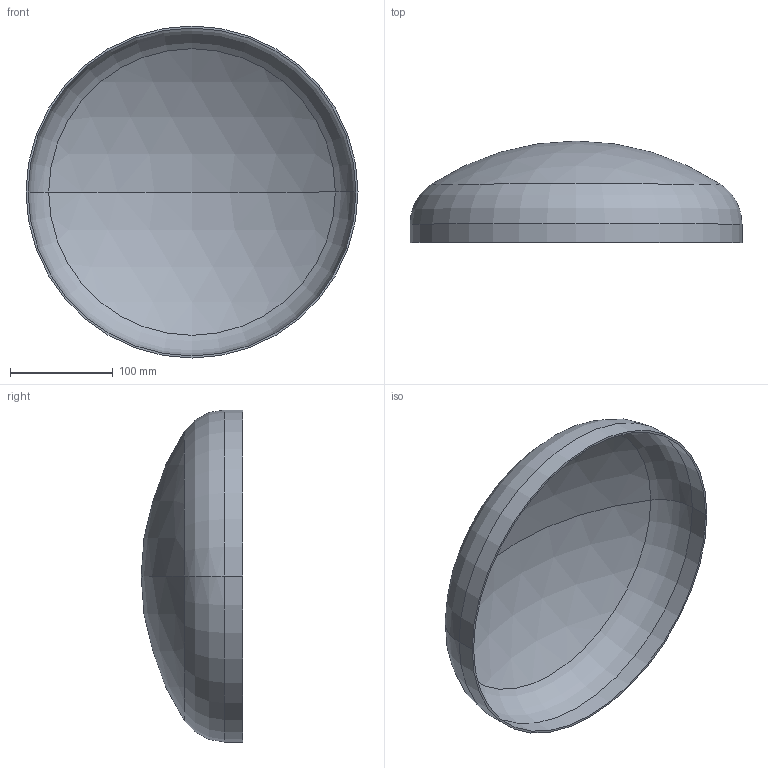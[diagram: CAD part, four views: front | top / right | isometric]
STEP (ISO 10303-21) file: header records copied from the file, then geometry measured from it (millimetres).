
FILE_DESCRIPTION (( 'STEP AP203' ), '1' );
FILE_NAME ('3D_R365_323.9x2_173374040.STEP', '2024-07-16T07:00:27', ( '' ), ( '' ), 'SwSTEP 2.0', 'SolidWorks 2024', '' );
FILE_SCHEMA (( 'CONFIG_CONTROL_DESIGN' ));
Length unit declared in the file: millimetre
Products named in the file (1): 3D_R365_323.9x2_173374040
Bounding box: 323.9 x 99 x 323.9 mm (x, y, z)
Volume: 258495.8 mm3; surface area: 260526.6 mm2
Topology: 1 solids, 1 shells, 13 faces, 24 edges, 14 vertices
Faces by surface type: sphere 4, torus 4, cylinder 4, plane 1
Entity records: 407 total; most frequent: DIRECTION 72, CARTESIAN_POINT 52, ORIENTED_EDGE 48, AXIS2_PLACEMENT_3D 34, EDGE_CURVE 24, CIRCLE 20, VERTEX_POINT 14, EDGE_LOOP 14
